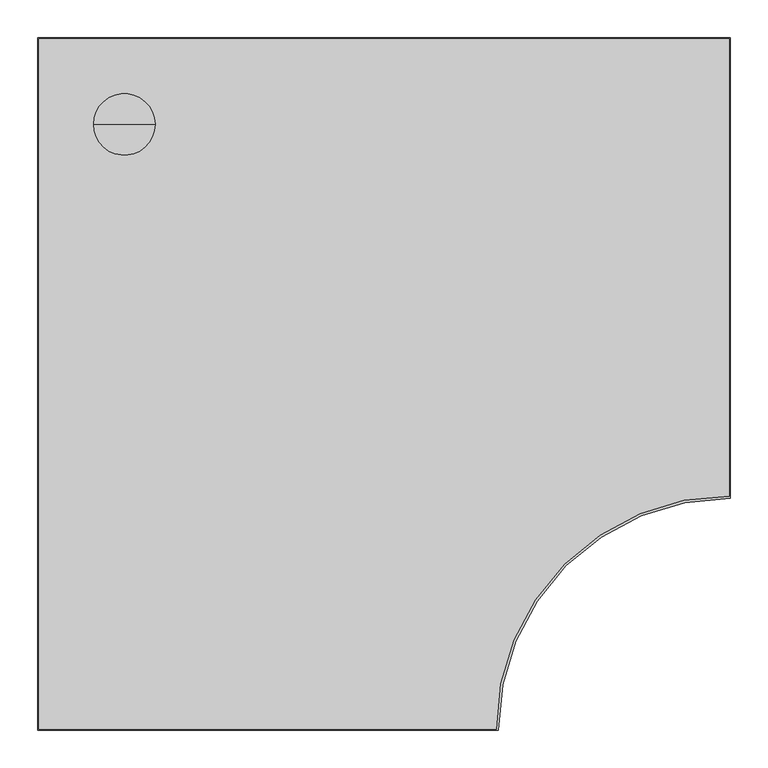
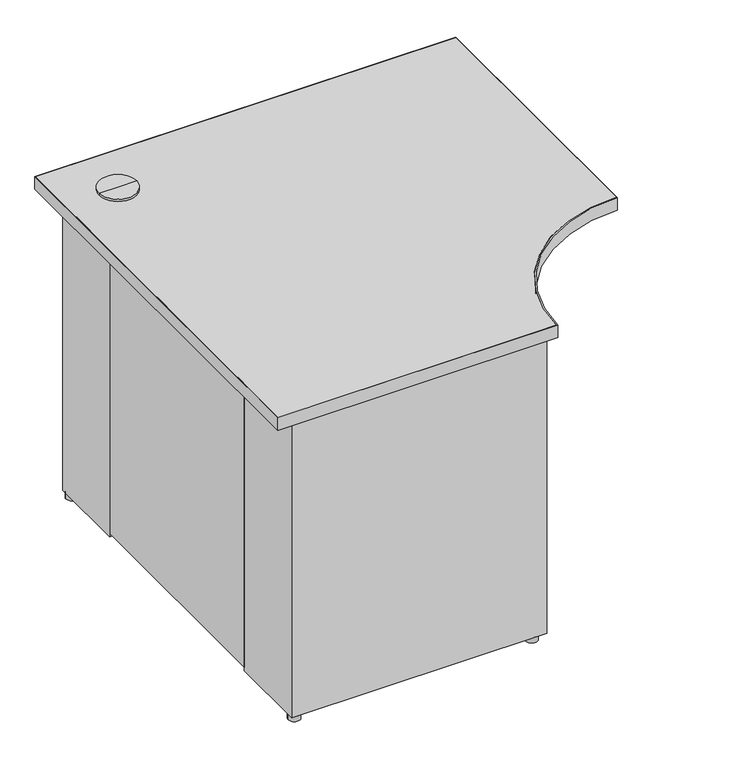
"""IFC4 building model written with IfcOpenShell, lengths in millimetres: furniture geometry, Steelcase - Kick Freestanding - Desk - Curve Corner - Full Height Modesty Panel : 24D x 36W - Left Full End Panel/Right Clear Access Support - LPL."""

import ifcopenshell
import ifcopenshell.guid

model = None  # the IFC model being written
_history = None  # IfcOwnerHistory: only IFC2X3 demands one
_inside = {}  # id of a spatial element -> (the spatial element, [elements in it])
_under = {}  # id of a project, library or spatial element -> (it, [spatial elements below it])
_declared = {}  # id of a project -> (the project, [libraries it declares])
_typed = {}  # id of a type object -> (the type object, [elements of that type])
_made_of = {}  # id of a material, layer set ... -> (it, [elements and type objects made of it])


def new_model(schema):
    """Start an empty IFC model of exactly this schema.

    Asked for "IFC4X3", IfcOpenShell would pick the latest addendum, in which some entities
    have other attributes; the version numbers below select the first issue.
    IFC2X3 requires an IfcOwnerHistory on every rooted entity: one is made here for all.
    """
    global model, _history
    if schema == "IFC4X3":
        model = ifcopenshell.file(schema_version=(4, 3, 0, 0))
    else:
        model = ifcopenshell.file(schema=schema)
    _inside.clear()
    _under.clear()
    _declared.clear()
    _typed.clear()
    _made_of.clear()
    _history = None
    if model.schema == "IFC2X3":
        org = make("IfcOrganization", Name="unknown")
        user = make(
            "IfcPersonAndOrganization",
            ThePerson=make("IfcPerson", FamilyName="unknown"),
            TheOrganization=org,
        )
        app = make(
            "IfcApplication",
            ApplicationDeveloper=org,
            Version="unknown",
            ApplicationFullName="unknown",
            ApplicationIdentifier="unknown",
        )
        _history = make(
            "IfcOwnerHistory",
            OwningUser=user,
            OwningApplication=app,
            ChangeAction="ADDED",
            CreationDate=0,
        )
    return model


def make(cls, **values):
    """One entity of the class cls with the attributes given. An attribute that is None is left unset."""
    return model.create_entity(
        cls, **{name: value for name, value in values.items() if value is not None}
    )


def rooted(cls, **values):
    """An entity with a GlobalId (a new one), such as an element, a storey or a relation."""
    return make(cls, GlobalId=ifcopenshell.guid.new(), OwnerHistory=_history, **values)


def si_unit(unit_type, name, prefix=None):
    """IfcSIUnit, for example si_unit("LENGTHUNIT", "METRE", prefix="MILLI")."""
    return make("IfcSIUnit", UnitType=unit_type, Prefix=prefix, Name=name)


def assignment(units):
    """IfcUnitAssignment: the units of a project."""
    return None if units is None else make("IfcUnitAssignment", Units=units)


def point(xyz):
    """IfcCartesianPoint."""
    return None if xyz is None else make("IfcCartesianPoint", Coordinates=xyz)


def direction(xyz):
    """IfcDirection."""
    return None if xyz is None else make("IfcDirection", DirectionRatios=xyz)


def frame(location, z_axis=None, x_axis=None):
    """IfcAxis2Placement3D, a coordinate frame: its origin and axes. An axis left out is left unset."""
    return make(
        "IfcAxis2Placement3D",
        Location=point(location),
        Axis=direction(z_axis),
        RefDirection=direction(x_axis),
    )


def frame_2d(location, x_axis=None):
    """IfcAxis2Placement2D, a coordinate frame in the plane: its origin and x axis."""
    return make(
        "IfcAxis2Placement2D", Location=point(location), RefDirection=direction(x_axis)
    )


def origin():
    """The frame at (0, 0, 0) with its axes left unset."""
    return frame((0.0, 0.0, 0.0))


def origin_with_axes():
    """The frame at (0, 0, 0) with the z axis (0, 0, 1) and the x axis (1, 0, 0) written out."""
    return frame((0.0, 0.0, 0.0), z_axis=(0.0, 0.0, 1.0), x_axis=(1.0, 0.0, 0.0))


def place(relative_to, where):
    """IfcLocalPlacement: puts the frame where relative to a parent placement (None: the world)."""
    return make(
        "IfcLocalPlacement", PlacementRelTo=relative_to, RelativePlacement=where
    )


def context(
    kind, dimensions, precision=None, world=None, true_north=None, identifier=None
):
    """IfcGeometricRepresentationContext, for example the 3D "Model" context."""
    return make(
        "IfcGeometricRepresentationContext",
        ContextIdentifier=identifier,
        ContextType=kind,
        CoordinateSpaceDimension=dimensions,
        Precision=precision,
        WorldCoordinateSystem=world,
        TrueNorth=true_north,
    )


def project(units=None, contexts=None):
    """IfcProject with its units and contexts."""
    return rooted(
        "IfcProject",
        Name="project",
        RepresentationContexts=contexts,
        UnitsInContext=assignment(units),
    )


def spatial(cls, under=None, at=None, **own):
    """A site, building, storey or space (cls), placed at a placement, below another one or the project."""
    s = rooted(cls, ObjectPlacement=at, **own)
    if under is not None:
        _under.setdefault(under.id(), (under, []))[1].append(s)
    return s


def polyline(points):
    """IfcPolyline through the points."""
    return make("IfcPolyline", Points=[point(p) for p in points])


def circle_curve(where, radius):
    """IfcCircle in the frame where."""
    return make("IfcCircle", Position=where, Radius=radius)


def trimmed(basis, trim1, trim2, sense, master):
    """IfcTrimmedCurve: the piece of a basis curve between two trims."""
    return make(
        "IfcTrimmedCurve",
        BasisCurve=basis,
        Trim1=trim1,
        Trim2=trim2,
        SenseAgreement=sense,
        MasterRepresentation=master,
    )


def segment(curve, same_sense, transition):
    """IfcCompositeCurveSegment."""
    return make(
        "IfcCompositeCurveSegment",
        Transition=transition,
        SameSense=same_sense,
        ParentCurve=curve,
    )


def composite_curve(segments, self_intersect=None):
    """IfcCompositeCurve: segments joined end to end."""
    return make("IfcCompositeCurve", Segments=segments, SelfIntersect=self_intersect)


def outline(outer, holes=None, kind="AREA"):
    """IfcArbitraryClosedProfileDef: a profile drawn as a closed curve; with holes, ...WithVoids."""
    if holes is None:
        return make("IfcArbitraryClosedProfileDef", ProfileType=kind, OuterCurve=outer)
    return make(
        "IfcArbitraryProfileDefWithVoids",
        ProfileType=kind,
        OuterCurve=outer,
        InnerCurves=holes,
    )


def extrude(swept, where, along, depth):
    """IfcExtrudedAreaSolid: the profile swept, set in the frame where, extruded along a direction by depth."""
    return make(
        "IfcExtrudedAreaSolid",
        SweptArea=swept,
        Position=where,
        ExtrudedDirection=direction(along),
        Depth=depth,
    )


def shape(context_of_items, identifier, shape_type, items):
    """IfcShapeRepresentation: the items that make up one representation, for example the "Body"."""
    return make(
        "IfcShapeRepresentation",
        ContextOfItems=context_of_items,
        RepresentationIdentifier=identifier,
        RepresentationType=shape_type,
        Items=items,
    )


def source(mapping_origin, context_of_items, identifier, shape_type, items):
    """IfcRepresentationMap: a shape defined once, which mapped items show again and again."""
    return make(
        "IfcRepresentationMap",
        MappingOrigin=mapping_origin,
        MappedRepresentation=shape(context_of_items, identifier, shape_type, items),
    )


def transform(
    local_origin,
    x_axis=None,
    y_axis=None,
    z_axis=None,
    scale=None,
    scale2=None,
    scale3=None,
    uniform=True,
):
    """IfcCartesianTransformationOperator3D, or its non-uniform kind. x_axis, y_axis, z_axis: its Axis1, 2, 3."""
    if uniform:
        return make(
            "IfcCartesianTransformationOperator3D",
            Axis1=direction(x_axis),
            Axis2=direction(y_axis),
            LocalOrigin=point(local_origin),
            Scale=scale,
            Axis3=direction(z_axis),
        )
    return make(
        "IfcCartesianTransformationOperator3DnonUniform",
        Axis1=direction(x_axis),
        Axis2=direction(y_axis),
        LocalOrigin=point(local_origin),
        Scale=scale,
        Axis3=direction(z_axis),
        Scale2=scale2,
        Scale3=scale3,
    )


def mapped(mapping_source, mapping_target):
    """IfcMappedItem: shows the shape of a source again, moved by a transform."""
    return make(
        "IfcMappedItem", MappingSource=mapping_source, MappingTarget=mapping_target
    )


def made_of(thing, what):
    """Note that an element or type object is made of a material, layer set ...; save() writes the relation."""
    if what is not None:
        _made_of.setdefault(what.id(), (what, []))[1].append(thing)
    return thing


def element(
    cls,
    number,
    at=None,
    inside=None,
    cuts=None,
    type_object=None,
    material=None,
    context=None,
    identifier="Body",
    shape_type=None,
    held_by="IfcProductDefinitionShape",
    body=None,
    shapes=None,
    **own,
):
    """One element of the class cls, such as IfcWall. Its Tag is "e" and its number.

    at: its placement. inside: the storey or other place that contains it. cuts: it is an
    opening in that element (IfcRelVoidsElement). A single representation is given by context,
    identifier, shape_type and body (its items); several are given by shapes. held_by: the class
    of the entity that holds the representations. save() writes the other relations.
    """
    e = rooted(cls, Tag="e%d" % number, ObjectPlacement=at, **own)
    if body is not None:
        shapes = [shape(context, identifier, shape_type, body)]
    if shapes is not None:
        e.Representation = make(held_by, Representations=shapes)
    if inside is not None:
        _inside.setdefault(inside.id(), (inside, []))[1].append(e)
    if cuts is not None:
        rooted(
            "IfcRelVoidsElement", RelatingBuildingElement=cuts, RelatedOpeningElement=e
        )
    if type_object is not None:
        _typed.setdefault(type_object.id(), (type_object, []))[1].append(e)
    return made_of(e, material)


def aggregate(whole, parts):
    """IfcRelAggregates: a whole, such as a stair, and the parts it consists of."""
    return rooted("IfcRelAggregates", RelatingObject=whole, RelatedObjects=parts)


def save(model, path):
    """Write the relations noted so far, then the file.

    IfcRelAggregates (storeys below a building ...), IfcRelContainedInSpatialStructure (elements
    in a storey), IfcRelDefinesByType, IfcRelAssociatesMaterial and IfcRelDeclares: one each for
    every whole, place, type object, material and project.
    """
    for whole, parts in _under.values():
        aggregate(whole, parts)
    for where, things in _inside.values():
        rooted(
            "IfcRelContainedInSpatialStructure",
            RelatedElements=things,
            RelatingStructure=where,
        )
    for kind, things in _typed.values():
        rooted("IfcRelDefinesByType", RelatedObjects=things, RelatingType=kind)
    for what, things in _made_of.values():
        rooted("IfcRelAssociatesMaterial", RelatedObjects=things, RelatingMaterial=what)
    for by, libraries in _declared.values():
        rooted("IfcRelDeclares", RelatingContext=by, RelatedDefinitions=libraries)
    model.write(path)


def plane_surface(at):
    """IfcPlane: the flat surface through the origin of the frame at, square to its z axis."""
    return make("IfcPlane", Position=at)


def cylinder_surface(at, radius):
    """IfcCylindricalSurface: all points at the distance radius from the z axis of the frame at."""
    return make("IfcCylindricalSurface", Position=at, Radius=radius)


def advanced_brep(points, edges, surfaces, faces):
    """IfcAdvancedBrep: a solid bounded by faces that lie on surfaces and meet in shared edges.

    An edge is (start, end): straight between two places in points (the first is 0);
    or (start, end, curve); or (start, end, curve, False) where it runs against its curve.
    A face is (place in surfaces, loops), or (place, loops, False) where it looks against
    its surface's normal. A loop lists edges by number (the first is 1), with a minus sign
    where the edge is run from its end to its start. The first loop is the outer one.
    """
    corners = [point(p) for p in points]
    vertices = [make("IfcVertexPoint", VertexGeometry=c) for c in corners]
    made = []
    for start, end, *more in edges:
        made.append(
            make(
                "IfcEdgeCurve",
                EdgeStart=vertices[start],
                EdgeEnd=vertices[end],
                EdgeGeometry=more[0] if more else make("IfcPolyline", Points=[corners[start], corners[end]]),
                SameSense=more[1] if len(more) > 1 else True,
            )
        )
    hull = []
    for where, loops, *sense in faces:
        bounds = []
        for j, loop in enumerate(loops):
            ring = [make("IfcOrientedEdge", EdgeElement=made[abs(k) - 1], Orientation=k > 0) for k in loop]
            bounds.append(
                make(
                    "IfcFaceOuterBound" if j == 0 else "IfcFaceBound",
                    Bound=make("IfcEdgeLoop", EdgeList=ring),
                    Orientation=True,
                )
            )
        hull.append(make("IfcAdvancedFace", Bounds=bounds, FaceSurface=surfaces[where], SameSense=sense[0] if sense else True))
    return make("IfcAdvancedBrep", Outer=make("IfcClosedShell", CfsFaces=hull))


def furniture_5f4ce2ab(model_context):
    return source(origin(), model_context, "Body", "SolidModel", [
        extrude(outline(composite_curve([segment(trimmed(circle_curve(frame_2d((566.7971133, -887.4759893)), 12.7), [point((554.0971133, -887.4759893))], [point((579.4971133, -887.4759893))], False, "CARTESIAN"), True, "CONTINUOUS"), segment(trimmed(circle_curve(frame_2d((566.7971133, -887.4759893)), 12.7), [point((579.4971133, -887.4759893))], [point((554.0971133, -887.4759893))], False, "CARTESIAN"), True, "CONTINUOUS")], self_intersect=False)), origin_with_axes(), (0.0, 0.0, 1.0), 12.446),
        extrude(outline(polyline([(721.6393822, -63.5), (721.6393822, -38.1), (899.4393579, -38.1), (899.4393579, -215.8999939), (873.5313463, -215.8999939), (873.5313463, -63.5), (721.6393822, -63.5)])), frame((0.0, 0.0, 12.446), z_axis=(0.0, 0.0, 1.0), x_axis=(1.0, 0.0, 0.0)), (0.0, 0.0, 1.0), 682.498),
        extrude(outline(polyline([(215.8999939, -63.5), (63.5, -63.5), (63.5, -215.8999939), (38.1, -215.8999939), (38.1, -38.1), (215.8999939, -38.1), (215.8999939, -63.5)])), frame((0.0, 0.0, 12.446), z_axis=(0.0, 0.0, 1.0), x_axis=(1.0, 0.0, 0.0)), (0.0, 0.0, 1.0), 682.498),
        extrude(outline(polyline([(63.5, -722.6300194), (63.5, -875.0300194), (161.3662, -875.0300194), (161.3662, -894.6895822), (261.0866, -894.6895822), (261.0866, -875.0300194), (369.824, -875.0300194), (369.824, -894.6895822), (469.5444, -894.6895822), (469.5444, -875.0300194), (592.582, -875.0300194), (592.582, -900.4299952), (38.1, -900.4299952), (38.1, -722.6300194), (63.5, -722.6300194)])), frame((0.0, 0.0, 12.446), z_axis=(0.0, 0.0, 1.0), x_axis=(1.0, 0.0, 0.0)), (0.0, 0.0, 1.0), 682.498),
        advanced_brep(
        [(114.3, -114.3, 728.98), (154.94, -114.3, 728.98), (73.66, -114.3, 728.98), (76.1699693, -114.3, 694.944), (152.4300307, -114.3, 694.944), (114.3, -114.3, 694.944), (76.1699693, -114.3, 723.9), (152.4300307, -114.3, 723.9), (73.66, -114.3, 723.9), (154.94, -114.3, 723.9)],
        [
            (0, 1),
            (1, 2, circle_curve(frame((114.3, -114.3, 728.98), z_axis=(0.0, 0.0, 1.0), x_axis=(1.0, 0.0, 0.0)), 40.64)),
            (2, 0),
            (2, 1, circle_curve(frame((114.3, -114.3, 728.98), z_axis=(0.0, 0.0, 1.0), x_axis=(1.0, 0.0, 0.0)), 40.64)),
            (3, 4, circle_curve(frame((114.3, -114.3, 694.944), z_axis=(0.0, 0.0, -1.0), x_axis=(1.0, 0.0, 0.0)), 38.1300307)),
            (4, 5),
            (5, 3),
            (4, 3, circle_curve(frame((114.3, -114.3, 694.944), z_axis=(0.0, 0.0, -1.0), x_axis=(1.0, 0.0, 0.0)), 38.1300307)),
            (6, 7, circle_curve(frame((114.3, -114.3, 723.9), z_axis=(0.0, 0.0, -1.0), x_axis=(1.0, 0.0, 0.0)), 38.1300307)),
            (7, 4),
            (3, 6),
            (7, 6, circle_curve(frame((114.3, -114.3, 723.9), z_axis=(0.0, 0.0, -1.0), x_axis=(1.0, 0.0, 0.0)), 38.1300307)),
            (8, 9, circle_curve(frame((114.3, -114.3, 723.9), z_axis=(0.0, 0.0, -1.0), x_axis=(1.0, 0.0, 0.0)), 40.64)),
            (9, 7),
            (6, 8),
            (9, 8, circle_curve(frame((114.3, -114.3, 723.9), z_axis=(0.0, 0.0, -1.0), x_axis=(1.0, 0.0, 0.0)), 40.64)),
            (1, 9),
            (8, 2),
        ],
        [
            plane_surface(frame((114.3, -114.3, 728.98), z_axis=(0.0, 0.0, 1.0), x_axis=(1.0, 0.0, 0.0))),
            plane_surface(frame((114.3, -114.3, 694.944), z_axis=(0.0, 0.0, -1.0), x_axis=(1.0, 0.0, 0.0))),
            cylinder_surface(frame((114.3, -114.3, 728.98), z_axis=(0.0, 0.0, 1.0), x_axis=(1.0, 0.0, 0.0)), 38.1300307),
            plane_surface(frame((114.3, -114.3, 723.9), z_axis=(0.0, 0.0, -1.0), x_axis=(1.0, 0.0, 0.0))),
            cylinder_surface(frame((114.3, -114.3, 728.98), z_axis=(0.0, 0.0, 1.0), x_axis=(1.0, 0.0, 0.0)), 40.64),
        ],
        [
            (0, [[1, 2, 3]]),
            (0, [[-3, 4, -1]]),
            (1, [[5, 6, 7]]),
            (1, [[8, -7, -6]]),
            (2, [[9, 10, -5, 11]]),
            (2, [[12, -11, -8, -10]]),
            (3, [[13, 14, -9, 15]]),
            (3, [[16, -15, -12, -14]]),
            (4, [[-2, 17, -13, 18]]),
            (4, [[-4, -18, -16, -17]]),
        ],
    ),
        extrude(outline(composite_curve([segment(trimmed(circle_curve(frame_2d((50.8, -50.8)), 12.7), [point((38.1, -50.8))], [point((63.5, -50.8))], False, "CARTESIAN"), True, "CONTINUOUS"), segment(trimmed(circle_curve(frame_2d((50.8, -50.8)), 12.7), [point((63.5, -50.8))], [point((38.1, -50.8))], False, "CARTESIAN"), True, "CONTINUOUS")], self_intersect=False)), origin_with_axes(), (0.0, 0.0, 1.0), 12.446),
        extrude(outline(composite_curve([segment(trimmed(circle_curve(frame_2d((50.8, -887.7300073)), 12.7484998), [point((38.0515002, -887.7300073))], [point((63.5484998, -887.7300073))], False, "CARTESIAN"), True, "CONTINUOUS"), segment(trimmed(circle_curve(frame_2d((50.8, -887.7300073)), 12.7484998), [point((63.5484998, -887.7300073))], [point((38.0515002, -887.7300073))], False, "CARTESIAN"), True, "CONTINUOUS")], self_intersect=False)), origin_with_axes(), (0.0, 0.0, 1.0), 12.446),
        extrude(outline(composite_curve([segment(trimmed(circle_curve(frame_2d((886.4853521, -50.8)), 12.7), [point((873.7853521, -50.8))], [point((899.1853521, -50.8))], False, "CARTESIAN"), True, "CONTINUOUS"), segment(trimmed(circle_curve(frame_2d((886.4853521, -50.8)), 12.7), [point((899.1853521, -50.8))], [point((873.7853521, -50.8))], False, "CARTESIAN"), True, "CONTINUOUS")], self_intersect=False)), origin_with_axes(), (0.0, 0.0, 1.0), 12.446),
        extrude(outline(polyline([(63.5, -215.8999939), (63.5, -722.6300194), (38.1, -722.6300194), (38.1, -215.8999939), (63.5, -215.8999939)])), frame((0.0, 0.0, 20.828), z_axis=(0.0, 0.0, 1.0), x_axis=(1.0, 0.0, 0.0)), (0.0, 0.0, 1.0), 674.116),
        extrude(outline(polyline([(721.6393822, -38.1), (721.6393822, -63.5), (215.8999939, -63.5), (215.8999939, -38.1), (721.6393822, -38.1)])), frame((0.0, 0.0, 20.828), z_axis=(0.0, 0.0, 1.0), x_axis=(1.0, 0.0, 0.0)), (0.0, 0.0, 1.0), 674.116),
        extrude(outline(composite_curve([segment(polyline([(0.9906, -913.4093628), (0.9906, -0.9906), (913.4093628, -0.9906), (913.4093628, -605.3354109)]), True, "CONTINUOUS"), segment(trimmed(circle_curve(frame_2d((912.1393458, -912.1393458)), 306.8065636), [point((913.4093628, -605.3354109))], [point((605.3354109, -913.4093628))], True, "CARTESIAN"), True, "CONTINUOUS"), segment(polyline([(605.3354109, -913.4093628), (0.9906, -913.4093628)]), True, "CONTINUOUS")], self_intersect=False)), frame((0.0, 0.0, 694.944), z_axis=(0.0, 0.0, 1.0), x_axis=(1.0, 0.0, 0.0)), (0.0, 0.0, 1.0), 28.956),
        extrude(outline(composite_curve([segment(polyline([(914.4, 0.0), (914.4, -608.332629)]), True, "CONTINUOUS"), segment(trimmed(circle_curve(frame_2d((913.129983, -913.129983)), 304.8), [point((914.4, -608.332629))], [point((608.332629, -914.4))], True, "CARTESIAN"), True, "CONTINUOUS"), segment(polyline([(608.332629, -914.4), (0.0, -914.4), (0.0, 0.0), (914.4, 0.0)]), True, "CONTINUOUS")], self_intersect=False), holes=[composite_curve([segment(polyline([(913.4093628, -0.9906), (0.9906, -0.9906), (0.9906, -913.4093628), (605.3354109, -913.4093628)]), True, "CONTINUOUS"), segment(trimmed(circle_curve(frame_2d((912.1393458, -912.1393458)), 306.8065636), [point((605.3354109, -913.4093628))], [point((913.4093628, -605.3354109))], False, "CARTESIAN"), True, "CONTINUOUS"), segment(polyline([(913.4093628, -605.3354109), (913.4093628, -0.9906)]), True, "CONTINUOUS")], self_intersect=False)]), frame((0.0, 0.0, 694.944), z_axis=(0.0, 0.0, 1.0), x_axis=(1.0, 0.0, 0.0)), (0.0, 0.0, 1.0), 28.956),
    ])


if __name__ == "__main__":
    model = new_model("IFC4")
    model_context = context("Model", 3, world=origin())
    ifc_project = project(units=[si_unit("LENGTHUNIT", "METRE", prefix="MILLI")], contexts=[model_context])
    site = spatial("IfcSite", under=ifc_project)
    building = spatial("IfcBuilding", under=site)
    placement = place(None, origin())
    furniture_shape = furniture_5f4ce2ab(model_context)
    element("IfcFurniture", 1, ObjectType="Steelcase - Kick Freestanding - Desk - Curve Corner - Full Height Modesty Panel : 24D x 36W - Left Full End Panel/Right Clear Access Support - LPL", at=placement, inside=building, context=model_context, shape_type="MappedRepresentation", body=[
        mapped(furniture_shape, transform((0.0, 0.0, 0.0), x_axis=(1.0, 0.0, 0.0), y_axis=(0.0, 1.0, 0.0), z_axis=(0.0, 0.0, 1.0))),
    ])
    save(model, "model.ifc")
